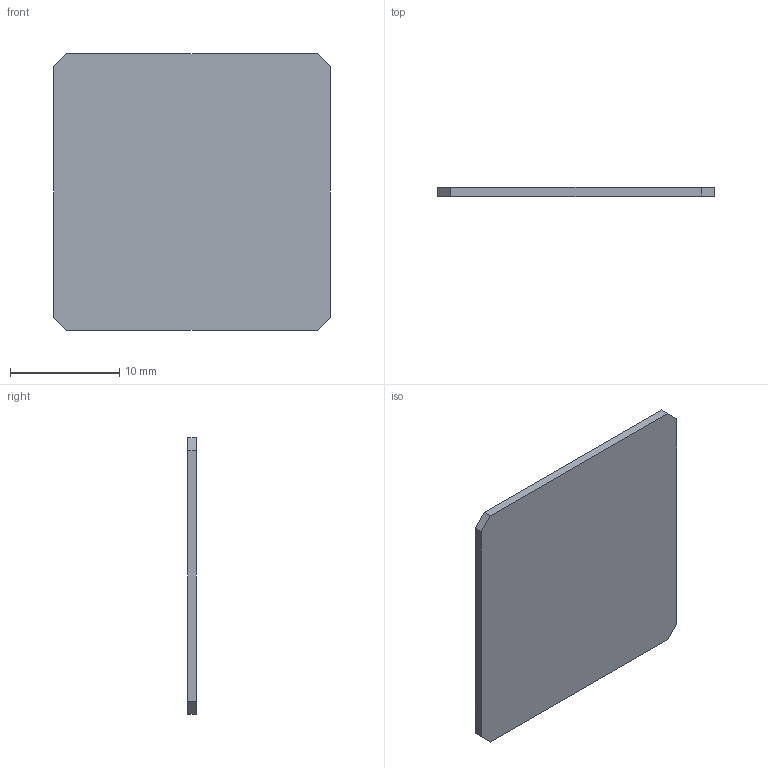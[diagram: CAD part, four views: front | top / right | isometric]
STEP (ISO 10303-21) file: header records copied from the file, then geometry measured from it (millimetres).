
FILE_DESCRIPTION(('HOOPS Exchange Step'),'2;1');
FILE_NAME('/tmp/da93ebbe96b7591fea030c281f46881e20220321-1-12jmqd4.SLDPRT.step','2022-03-21T15:26:50+00:00',('root'),('Unknown organisation'),'HOOPS Exchange 2021.0','HOOPS Exchange','Unknown authorisation');
FILE_SCHEMA( ('AUTOMOTIVE_DESIGN { 1 0 10303 214 1 1 1 1 }') );
Length unit declared in the file: millimetre
Products named in the file (2): Défaut; da93ebbe96b7591fea030c281f46881e20220321-1-12jmqd4
Assembly tree (1 placements, depth 2):
  da93ebbe96b7591fea030c281f46881e20220321-1-12jmqd4
    Défaut
Bounding box: 25.4 x 0.8 x 25.4 mm (x, y, z)
Volume: 513.8 mm3; surface area: 1363.6 mm2
Topology: 1 solids, 1 shells, 10 faces, 24 edges, 16 vertices
Faces by surface type: plane 10
Entity records: 335 total; most frequent: CARTESIAN_POINT 53, DIRECTION 50, ORIENTED_EDGE 48, VECTOR 24, LINE 24, EDGE_CURVE 24, VERTEX_POINT 16, AXIS2_PLACEMENT_3D 13
